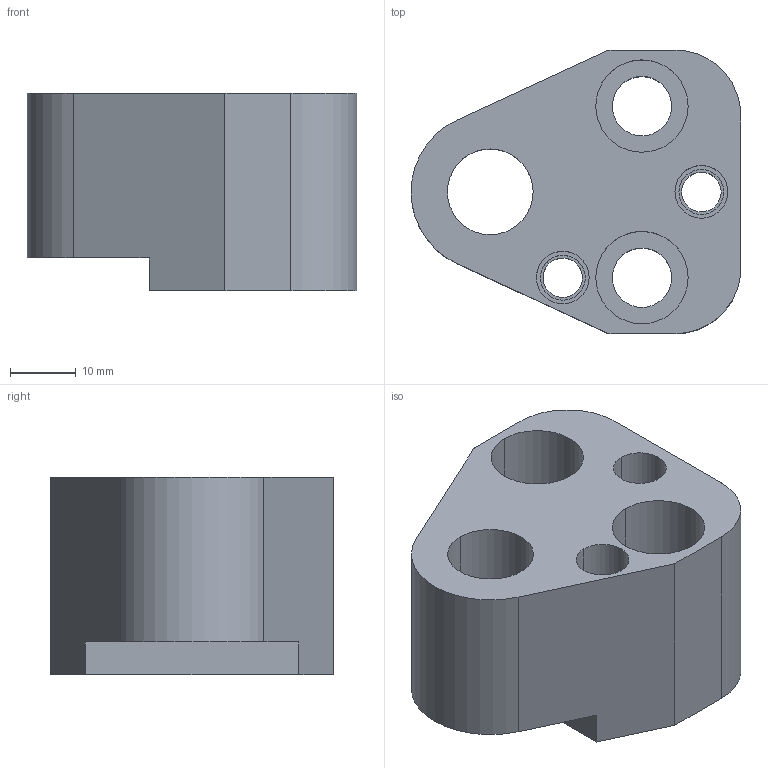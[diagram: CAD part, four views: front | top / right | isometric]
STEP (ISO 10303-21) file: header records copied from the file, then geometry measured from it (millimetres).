
FILE_DESCRIPTION(/* description */ (''),/* implementation_level */ '2;1');
FILE_NAME(/* name */ '3d_dp-fn13_03696_r00.stp',/* time_stamp */ '2011-01-10T14:15:56+09:00',/* author */ ('MISUMI'),/* organization */ (''),/* preprocessor_version */ 'ST-DEVELOPER v11',/* originating_system */ 'UGS - NX 5.0',/* authorisation */ '');
FILE_SCHEMA (('CONFIG_CONTROL_DESIGN'));
Length unit declared in the file: millimetre
Products named in the file (1): 3d_dp-fn13_03696_r00
Bounding box: 50 x 43 x 30 mm (x, y, z)
Volume: 36676.2 mm3; surface area: 11548.9 mm2
Topology: 1 solids, 1 shells, 42 faces, 104 edges, 69 vertices
Faces by surface type: cylinder 25, plane 15, cone 2
Entity records: 1382 total; most frequent: DIRECTION 242, CARTESIAN_POINT 221, ORIENTED_EDGE 208, EDGE_CURVE 104, AXIS2_PLACEMENT_3D 96, VERTEX_POINT 69, EDGE_LOOP 57, CIRCLE 53
